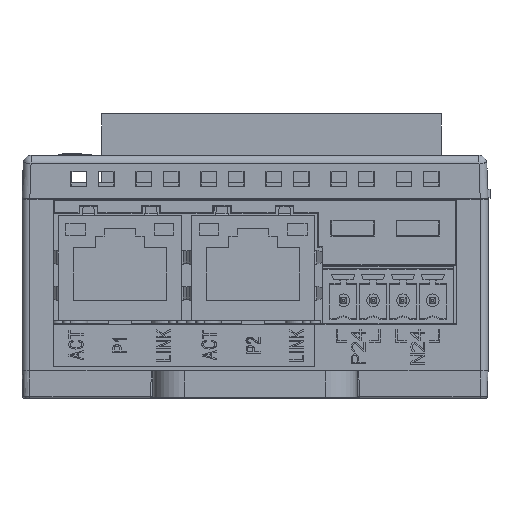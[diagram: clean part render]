
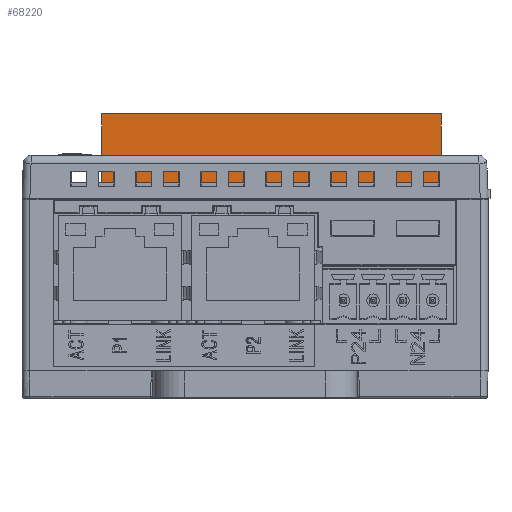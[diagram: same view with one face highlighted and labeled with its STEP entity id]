
A CAD part, front view. The second image highlights one B-rep face of the part: STEP entity #68220.
In plain terms, the highlighted planar face has unit normal (0, -1, 0).
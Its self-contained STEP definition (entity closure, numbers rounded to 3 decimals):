
#1926=DIRECTION('',(1.,0.,0.));
#1927=VECTOR('',#1926,43.3);
#1928=CARTESIAN_POINT('',(-19.55,-19.15,27.5));
#1929=LINE('',#1928,#1927);
#4362=DIRECTION('',(0.,0.,-1.));
#4363=VECTOR('',#4362,8.8);
#4364=CARTESIAN_POINT('',(23.75,-19.15,36.3));
#4365=LINE('',#4364,#4363);
#4370=DIRECTION('',(0.,0.,-1.));
#4371=VECTOR('',#4370,8.8);
#4372=CARTESIAN_POINT('',(-19.55,-19.15,36.3));
#4373=LINE('',#4372,#4371);
#4374=DIRECTION('',(-1.,0.,0.));
#4375=VECTOR('',#4374,43.3);
#4376=CARTESIAN_POINT('',(23.75,-19.15,36.3));
#4377=LINE('',#4376,#4375);
#50229=CARTESIAN_POINT('',(-19.55,-19.15,36.3));
#50231=VERTEX_POINT('',#50229);
#50235=CARTESIAN_POINT('',(23.75,-19.15,36.3));
#50236=VERTEX_POINT('',#50235);
#62222=CARTESIAN_POINT('',(-19.55,-19.15,27.5));
#62224=VERTEX_POINT('',#62222);
#62225=CARTESIAN_POINT('',(23.75,-19.15,27.5));
#62226=VERTEX_POINT('',#62225);
#68208=CARTESIAN_POINT('',(2.1,-19.15,31.7));
#68209=DIRECTION('',(0.,1.,0.));
#68210=DIRECTION('',(1.,0.,0.));
#68211=AXIS2_PLACEMENT_3D('',#68208,#68209,#68210);
#68212=PLANE('',#68211);
#68213=ORIENTED_EDGE('',*,*,#64365,.F.);
#68214=ORIENTED_EDGE('',*,*,#68154,.F.);
#68216=ORIENTED_EDGE('',*,*,#68215,.F.);
#68217=ORIENTED_EDGE('',*,*,#68193,.T.);
#68218=EDGE_LOOP('',(#68213,#68214,#68216,#68217));
#68219=FACE_OUTER_BOUND('',#68218,.F.);
#68220=ADVANCED_FACE('',(#68219),#68212,.F.);
#64365=EDGE_CURVE('',#62224,#62226,#1929,.T.);
#68154=EDGE_CURVE('',#50231,#62224,#4373,.T.);
#68193=EDGE_CURVE('',#50236,#62226,#4365,.T.);
#68215=EDGE_CURVE('',#50236,#50231,#4377,.T.);
